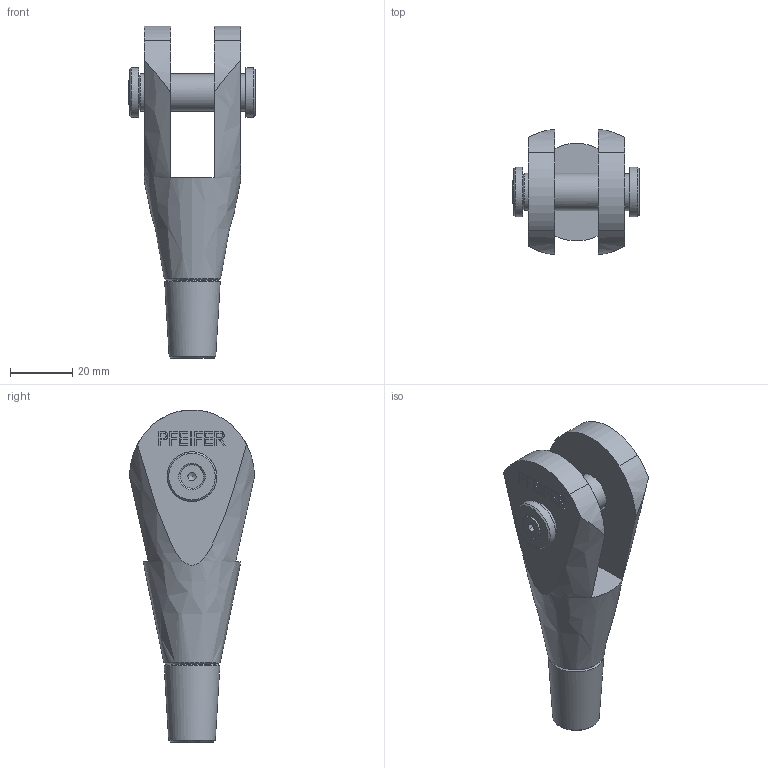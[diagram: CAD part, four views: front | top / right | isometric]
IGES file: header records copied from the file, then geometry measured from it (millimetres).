
Global section: file name: 520-012-GAK; native system: Autodesk Inventor 2016; preprocessor: unknown; author: Administrator; date: 20200625.074406; units: centimetre
Bounding box: 40.78 x 40.25 x 106.96 mm (x, y, z)
Volume: 46349.5 mm3; surface area: 15865.1 mm2
Topology: 2 solids, 3 shells, 186 faces, 491 edges, 328 vertices
Faces by surface type: bspline 186
